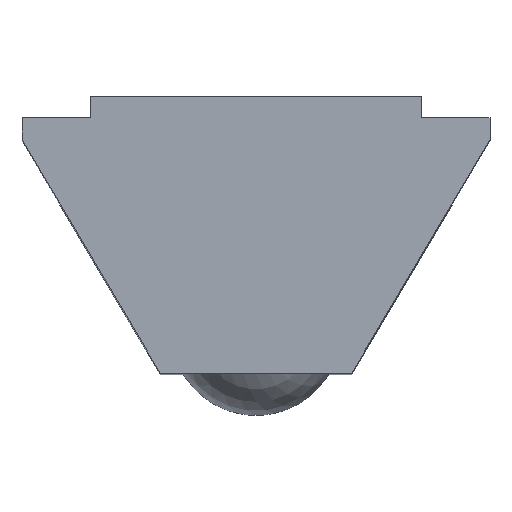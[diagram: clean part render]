
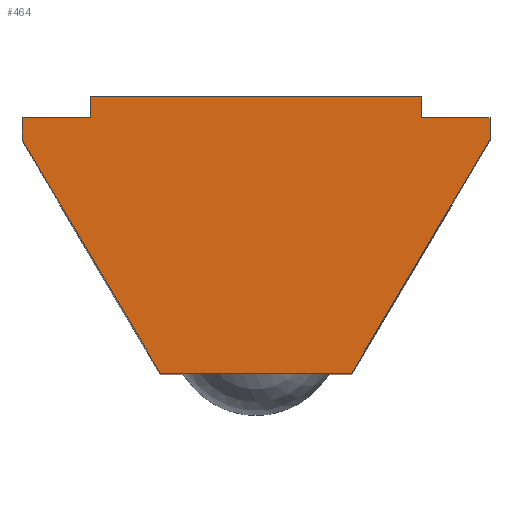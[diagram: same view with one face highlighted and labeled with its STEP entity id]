
A CAD part, top view. The second image highlights one B-rep face of the part: STEP entity #464.
In plain terms, the highlighted planar face has unit normal (0, 0, 1).
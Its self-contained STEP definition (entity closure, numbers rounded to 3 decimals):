
#117=CARTESIAN_POINT('',(3.9,9.902,22.0));
#118=VERTEX_POINT('',#117);
#125=CARTESIAN_POINT('',(5.5,9.902,22.0));
#126=VERTEX_POINT('',#125);
#127=CARTESIAN_POINT('',(3.9,9.902,22.0));
#128=DIRECTION('',(1.0,0.0,0.0));
#129=VECTOR('',#128,1.6);
#130=LINE('',#127,#129);
#131=EDGE_CURVE('',#118,#126,#130,.T.);
#157=CARTESIAN_POINT('',(-3.9,9.902,22.0));
#158=VERTEX_POINT('',#157);
#173=CARTESIAN_POINT('',(-5.5,9.902,22.0));
#174=VERTEX_POINT('',#173);
#181=CARTESIAN_POINT('',(-5.5,9.902,22.0));
#182=DIRECTION('',(1.0,0.0,0.0));
#183=VECTOR('',#182,1.6);
#184=LINE('',#181,#183);
#185=EDGE_CURVE('',#174,#158,#184,.T.);
#195=CARTESIAN_POINT('',(5.5,9.402,22.0));
#196=VERTEX_POINT('',#195);
#197=CARTESIAN_POINT('',(5.5,9.902,22.0));
#198=DIRECTION('',(0.0,-1.0,0.0));
#199=VECTOR('',#198,0.5);
#200=LINE('',#197,#199);
#201=EDGE_CURVE('',#126,#196,#200,.T.);
#226=CARTESIAN_POINT('',(2.25,3.902,22.0));
#227=VERTEX_POINT('',#226);
#228=CARTESIAN_POINT('',(5.5,9.402,22.0));
#229=DIRECTION('',(-0.509,-0.861,0.0));
#230=VECTOR('',#229,6.388);
#231=LINE('',#228,#230);
#232=EDGE_CURVE('',#196,#227,#231,.T.);
#257=CARTESIAN_POINT('',(-2.25,3.902,22.0));
#258=VERTEX_POINT('',#257);
#259=CARTESIAN_POINT('',(2.25,3.902,22.0));
#260=DIRECTION('',(-1.0,0.0,0.0));
#261=VECTOR('',#260,4.5);
#262=LINE('',#259,#261);
#263=EDGE_CURVE('',#227,#258,#262,.T.);
#294=CARTESIAN_POINT('',(-5.5,9.402,22.0));
#295=VERTEX_POINT('',#294);
#296=CARTESIAN_POINT('',(-2.25,3.902,22.0));
#297=DIRECTION('',(-0.509,0.861,0.0));
#298=VECTOR('',#297,6.388);
#299=LINE('',#296,#298);
#300=EDGE_CURVE('',#258,#295,#299,.T.);
#325=CARTESIAN_POINT('',(-5.5,9.402,22.0));
#326=DIRECTION('',(0.0,1.0,0.0));
#327=VECTOR('',#326,0.5);
#328=LINE('',#325,#327);
#329=EDGE_CURVE('',#295,#174,#328,.T.);
#347=CARTESIAN_POINT('',(-3.9,10.402,22.0));
#348=VERTEX_POINT('',#347);
#349=CARTESIAN_POINT('',(-3.9,9.902,22.0));
#350=DIRECTION('',(0.0,1.0,0.0));
#351=VECTOR('',#350,0.5);
#352=LINE('',#349,#351);
#353=EDGE_CURVE('',#158,#348,#352,.T.);
#378=CARTESIAN_POINT('',(3.9,10.402,22.0));
#379=VERTEX_POINT('',#378);
#380=CARTESIAN_POINT('',(-3.9,10.402,22.0));
#381=DIRECTION('',(1.0,0.0,0.0));
#382=VECTOR('',#381,7.8);
#383=LINE('',#380,#382);
#384=EDGE_CURVE('',#348,#379,#383,.T.);
#412=CARTESIAN_POINT('',(3.9,10.402,22.0));
#413=DIRECTION('',(0.0,-1.0,0.0));
#414=VECTOR('',#413,0.5);
#415=LINE('',#412,#414);
#416=EDGE_CURVE('',#379,#118,#415,.T.);
#447=CARTESIAN_POINT('',(0.0,10.152,22.0));
#448=DIRECTION('',(0.0,0.0,1.0));
#449=DIRECTION('',(1.0,0.0,0.0));
#450=AXIS2_PLACEMENT_3D('',#447,#448,#449);
#451=PLANE('',#450);
#452=ORIENTED_EDGE('',*,*,#353,.F.);
#453=ORIENTED_EDGE('',*,*,#185,.F.);
#454=ORIENTED_EDGE('',*,*,#329,.F.);
#455=ORIENTED_EDGE('',*,*,#300,.F.);
#456=ORIENTED_EDGE('',*,*,#263,.F.);
#457=ORIENTED_EDGE('',*,*,#232,.F.);
#458=ORIENTED_EDGE('',*,*,#201,.F.);
#459=ORIENTED_EDGE('',*,*,#131,.F.);
#460=ORIENTED_EDGE('',*,*,#416,.F.);
#461=ORIENTED_EDGE('',*,*,#384,.F.);
#462=EDGE_LOOP('',(#452,#453,#454,#455,#456,#457,#458,#459,#460,#461));
#463=FACE_OUTER_BOUND('',#462,.T.);
#464=ADVANCED_FACE('',(#463),#451,.T.);
